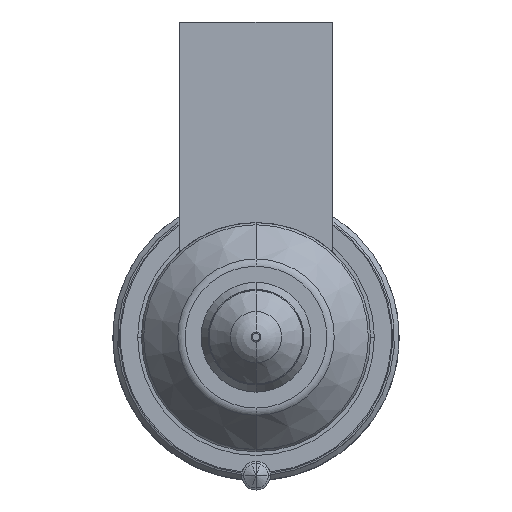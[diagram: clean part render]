
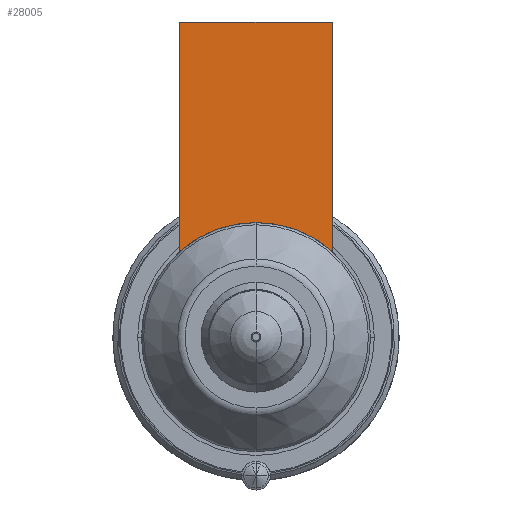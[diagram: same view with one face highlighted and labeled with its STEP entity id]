
A CAD part, front view. The second image highlights one B-rep face of the part: STEP entity #28005.
In plain terms, the highlighted planar face has unit normal (0, -1, 0).
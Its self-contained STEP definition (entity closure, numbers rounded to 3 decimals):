
#27095=DIRECTION('',(0.,0.,-1.));
#27096=VECTOR('',#27095,24.056);
#27097=CARTESIAN_POINT('',(-8.,-56.,33.));
#27098=LINE('',#27097,#27096);
#27135=DIRECTION('',(1.,0.,0.));
#27136=VECTOR('',#27135,16.);
#27137=CARTESIAN_POINT('',(-8.,-56.,33.));
#27138=LINE('',#27137,#27136);
#27142=CARTESIAN_POINT('',(0.,-56.,0.));
#27143=DIRECTION('',(0.,-1.,0.));
#27144=DIRECTION('',(0.667,0.,0.745));
#27145=AXIS2_PLACEMENT_3D('',#27142,#27143,#27144);
#27150=CARTESIAN_POINT('',(0.,-56.,0.));
#27151=DIRECTION('',(0.,-1.,0.));
#27152=DIRECTION('',(0.,0.,1.));
#27153=AXIS2_PLACEMENT_3D('',#27150,#27151,#27152);
#27186=DIRECTION('',(0.,0.,-1.));
#27187=VECTOR('',#27186,24.056);
#27188=CARTESIAN_POINT('',(8.,-56.,33.));
#27189=LINE('',#27188,#27187);
#27841=CARTESIAN_POINT('',(-8.,-56.,33.));
#27842=VERTEX_POINT('',#27841);
#27847=CARTESIAN_POINT('',(8.,-56.,33.));
#27848=VERTEX_POINT('',#27847);
#27851=CARTESIAN_POINT('',(-8.,-56.,8.944));
#27852=VERTEX_POINT('',#27851);
#27855=CARTESIAN_POINT('',(8.,-56.,8.944));
#27856=VERTEX_POINT('',#27855);
#27924=CARTESIAN_POINT('',(0.,-56.,12.));
#27925=VERTEX_POINT('',#27924);
#27990=CARTESIAN_POINT('',(-8.,-56.,33.));
#27991=DIRECTION('',(0.,-1.,0.));
#27992=DIRECTION('',(0.,0.,-1.));
#27993=AXIS2_PLACEMENT_3D('',#27990,#27991,#27992);
#27994=PLANE('',#27993);
#27995=ORIENTED_EDGE('',*,*,#27938,.F.);
#27997=ORIENTED_EDGE('',*,*,#27996,.T.);
#27999=ORIENTED_EDGE('',*,*,#27998,.T.);
#28001=ORIENTED_EDGE('',*,*,#28000,.T.);
#28002=ORIENTED_EDGE('',*,*,#27970,.T.);
#28003=EDGE_LOOP('',(#27995,#27997,#27999,#28001,#28002));
#28004=FACE_OUTER_BOUND('',#28003,.F.);
#28005=ADVANCED_FACE('',(#28004),#27994,.T.);
#27146=CIRCLE('',#27145,12.);
#27154=CIRCLE('',#27153,12.);
#27938=EDGE_CURVE('',#27842,#27852,#27098,.T.);
#27970=EDGE_CURVE('',#27925,#27852,#27154,.T.);
#27996=EDGE_CURVE('',#27842,#27848,#27138,.T.);
#27998=EDGE_CURVE('',#27848,#27856,#27189,.T.);
#28000=EDGE_CURVE('',#27856,#27925,#27146,.T.);
